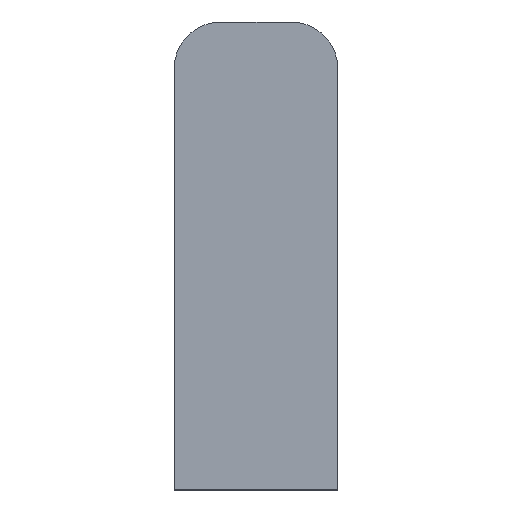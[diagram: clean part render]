
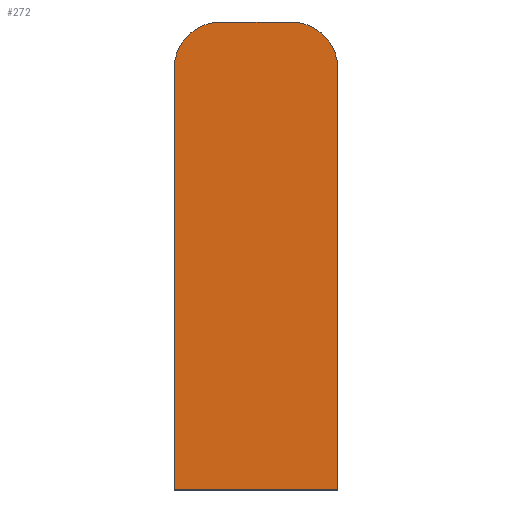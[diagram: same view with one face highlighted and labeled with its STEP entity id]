
A CAD part, front view. The second image highlights one B-rep face of the part: STEP entity #272.
In plain terms, the highlighted planar face has unit normal (0, -1, 0).
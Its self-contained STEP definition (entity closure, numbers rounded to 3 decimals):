
#3 = CARTESIAN_POINT ( 'NONE',  ( 2.25, 0., 13.5 ) ) ;
#6 = CARTESIAN_POINT ( 'NONE',  ( -5.25, 0., 10.5 ) ) ;
#7 = CARTESIAN_POINT ( 'NONE',  ( -2.25, 0., 13.5 ) ) ;
#8 = VERTEX_POINT ( 'NONE', #80 ) ;
#9 = VERTEX_POINT ( 'NONE', #7 ) ;
#10 = VERTEX_POINT ( 'NONE', #16 ) ;
#11 = VERTEX_POINT ( 'NONE', #6 ) ;
#13 = VERTEX_POINT ( 'NONE', #3 ) ;
#15 = VERTEX_POINT ( 'NONE', #19 ) ;
#16 = CARTESIAN_POINT ( 'NONE',  ( -5.25, 0., -16.5 ) ) ;
#19 = CARTESIAN_POINT ( 'NONE',  ( 5.25, 0., 10.5 ) ) ;
#37 = CARTESIAN_POINT ( 'NONE',  ( 2.25, 0., 13.5 ) ) ;
#39 = CARTESIAN_POINT ( 'NONE',  ( 5.25, 0., -16.5 ) ) ;
#40 = DIRECTION ( 'NONE',  ( -1., 0., 0. ) ) ;
#41 = DIRECTION ( 'NONE',  ( 0., 0., 1. ) ) ;
#42 = CARTESIAN_POINT ( 'NONE',  ( 5.25, 0., -16.5 ) ) ;
#43 = DIRECTION ( 'NONE',  ( 1., 0., 0. ) ) ;
#50 = CARTESIAN_POINT ( 'NONE',  ( -5.25, 0., -16.5 ) ) ;
#51 = DIRECTION ( 'NONE',  ( 0., 0., -1. ) ) ;
#58 = CARTESIAN_POINT ( 'NONE',  ( -2.25, 0., 10.5 ) ) ;
#60 = CARTESIAN_POINT ( 'NONE',  ( 2.25, 0., 10.5 ) ) ;
#62 = DIRECTION ( 'NONE',  ( 0., -1., 0. ) ) ;
#63 = DIRECTION ( 'NONE',  ( -1., 0., 0. ) ) ;
#65 = DIRECTION ( 'NONE',  ( 0., -1., 0. ) ) ;
#66 = DIRECTION ( 'NONE',  ( -1., 0., 0. ) ) ;
#80 = CARTESIAN_POINT ( 'NONE',  ( 5.25, 0., -16.5 ) ) ;
#86 = PLANE ( 'NONE',  #249 ) ;
#98 = CARTESIAN_POINT ( 'NONE',  ( 0., 0., -1.5 ) ) ;
#104 = DIRECTION ( 'NONE',  ( 0., 1., 0. ) ) ;
#105 = DIRECTION ( 'NONE',  ( -1., 0., 0. ) ) ;
#134 = VECTOR ( 'NONE', #43, 1000. ) ;
#135 = LINE ( 'NONE', #39, #205 ) ;
#137 = LINE ( 'NONE', #42, #134 ) ;
#142 = ORIENTED_EDGE ( 'NONE', *, *, #232, .T. ) ;
#150 = ORIENTED_EDGE ( 'NONE', *, *, #234, .T. ) ;
#154 = ORIENTED_EDGE ( 'NONE', *, *, #237, .T. ) ;
#159 = ORIENTED_EDGE ( 'NONE', *, *, #254, .T. ) ;
#160 = LINE ( 'NONE', #50, #178 ) ;
#161 = ORIENTED_EDGE ( 'NONE', *, *, #233, .T. ) ;
#163 = LINE ( 'NONE', #37, #177 ) ;
#165 = ORIENTED_EDGE ( 'NONE', *, *, #255, .T. ) ;
#177 = VECTOR ( 'NONE', #40, 1000. ) ;
#178 = VECTOR ( 'NONE', #51, 1000. ) ;
#202 = FACE_OUTER_BOUND ( 'NONE', #212, .T. ) ;
#205 = VECTOR ( 'NONE', #41, 1000. ) ;
#212 = EDGE_LOOP ( 'NONE', ( #161, #159, #142, #165, #154, #150 ) ) ;
#222 = CIRCLE ( 'NONE', #258, 3. ) ;
#226 = CIRCLE ( 'NONE', #238, 3. ) ;
#232 = EDGE_CURVE ( 'NONE', #13, #9, #163, .T. ) ;
#233 = EDGE_CURVE ( 'NONE', #8, #15, #135, .T. ) ;
#234 = EDGE_CURVE ( 'NONE', #10, #8, #137, .T. ) ;
#237 = EDGE_CURVE ( 'NONE', #11, #10, #160, .T. ) ;
#238 = AXIS2_PLACEMENT_3D ( 'NONE', #60, #62, #63 ) ;
#249 = AXIS2_PLACEMENT_3D ( 'NONE', #98, #104, #105 ) ;
#254 = EDGE_CURVE ( 'NONE', #15, #13, #226, .T. ) ;
#255 = EDGE_CURVE ( 'NONE', #9, #11, #222, .T. ) ;
#258 = AXIS2_PLACEMENT_3D ( 'NONE', #58, #65, #66 ) ;
#272 = ADVANCED_FACE ( 'NONE', ( #202 ), #86, .F. ) ;
